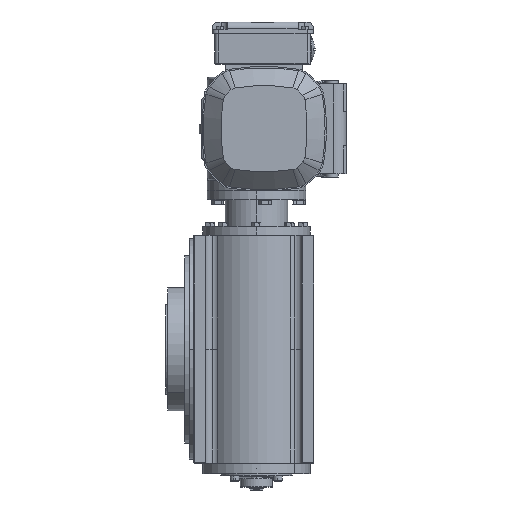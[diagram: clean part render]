
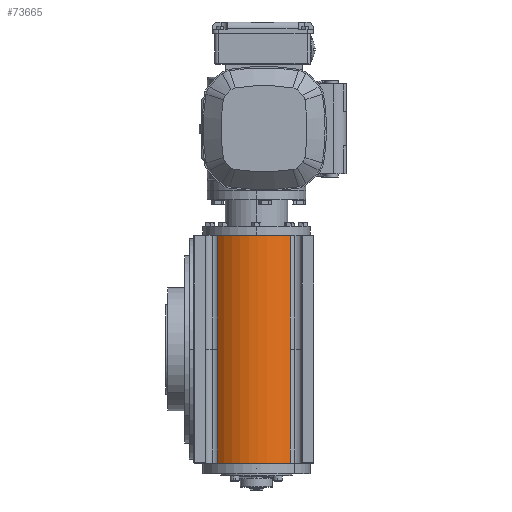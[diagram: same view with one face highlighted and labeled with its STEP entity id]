
A CAD part, left-side view. The second image highlights one B-rep face of the part: STEP entity #73665.
In plain terms, the highlighted cylindrical face has radius 60 mm (diameter 120 mm), a partial arc.
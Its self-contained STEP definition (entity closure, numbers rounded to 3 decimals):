
#724 = ORIENTED_EDGE ( 'NONE', *, *, #35340, .T. ) ;
#1053 = CARTESIAN_POINT ( 'NONE',  ( -131.481, 26.059, -121.981 ) ) ;
#7448 = CARTESIAN_POINT ( 'NONE',  ( -126.602, 107.235, -121.981 ) ) ;
#12289 = LINE ( 'NONE', #37129, #47748 ) ;
#13421 = CARTESIAN_POINT ( 'NONE',  ( -131.481, 26.059, 0. ) ) ;
#13992 = CARTESIAN_POINT ( 'NONE',  ( -126.602, 107.235, 127. ) ) ;
#14714 = DIRECTION ( 'NONE',  ( 1., 0., 0. ) ) ;
#18510 = DIRECTION ( 'NONE',  ( -1., 0., 0. ) ) ;
#20659 = AXIS2_PLACEMENT_3D ( 'NONE', #70694, #75634, #14714 ) ;
#20927 = CARTESIAN_POINT ( 'NONE',  ( -85., 64., -121.981 ) ) ;
#22244 = DIRECTION ( 'NONE',  ( 0., 0., -1. ) ) ;
#23467 = CARTESIAN_POINT ( 'NONE',  ( -131.481, 26.059, 127. ) ) ;
#23646 = EDGE_CURVE ( 'NONE', #42306, #78809, #56608, .T. ) ;
#26312 = VERTEX_POINT ( 'NONE', #46722 ) ;
#27039 = AXIS2_PLACEMENT_3D ( 'NONE', #20927, #69648, #63999 ) ;
#27350 = EDGE_CURVE ( 'NONE', #26312, #60785, #73050, .T. ) ;
#27913 = VECTOR ( 'NONE', #44504, 1000. ) ;
#28489 = VECTOR ( 'NONE', #22244, 1000. ) ;
#30805 = DIRECTION ( 'NONE',  ( 0., 0., -1. ) ) ;
#31928 = ORIENTED_EDGE ( 'NONE', *, *, #27350, .F. ) ;
#34467 = LINE ( 'NONE', #59213, #28489 ) ;
#35340 = EDGE_CURVE ( 'NONE', #65665, #41304, #56679, .T. ) ;
#37129 = CARTESIAN_POINT ( 'NONE',  ( -131.481, 26.059, -121.981 ) ) ;
#41304 = VERTEX_POINT ( 'NONE', #23467 ) ;
#42306 = VERTEX_POINT ( 'NONE', #13992 ) ;
#43826 = CIRCLE ( 'NONE', #20659, 60. ) ;
#44504 = DIRECTION ( 'NONE',  ( 0., 0., 1. ) ) ;
#45583 = DIRECTION ( 'NONE',  ( 0., 0., 1. ) ) ;
#46722 = CARTESIAN_POINT ( 'NONE',  ( -131.481, 26.059, -127. ) ) ;
#47748 = VECTOR ( 'NONE', #45583, 1000. ) ;
#48491 = VECTOR ( 'NONE', #75706, 1000. ) ;
#54456 = CARTESIAN_POINT ( 'NONE',  ( -126.602, 107.235, -127. ) ) ;
#56118 = ORIENTED_EDGE ( 'NONE', *, *, #73522, .T. ) ;
#56608 = LINE ( 'NONE', #7448, #48491 ) ;
#56675 = CYLINDRICAL_SURFACE ( 'NONE', #27039, 60. ) ;
#56679 = LINE ( 'NONE', #1053, #27913 ) ;
#59213 = CARTESIAN_POINT ( 'NONE',  ( -126.602, 107.235, -121.981 ) ) ;
#60538 = EDGE_CURVE ( 'NONE', #26312, #65665, #12289, .T. ) ;
#60785 = VERTEX_POINT ( 'NONE', #54456 ) ;
#60989 = ORIENTED_EDGE ( 'NONE', *, *, #60538, .T. ) ;
#61656 = CARTESIAN_POINT ( 'NONE',  ( -85., 64., -127. ) ) ;
#62820 = FACE_OUTER_BOUND ( 'NONE', #75057, .T. ) ;
#63392 = ORIENTED_EDGE ( 'NONE', *, *, #23646, .T. ) ;
#63999 = DIRECTION ( 'NONE',  ( 1., 0., 0. ) ) ;
#65665 = VERTEX_POINT ( 'NONE', #13421 ) ;
#69648 = DIRECTION ( 'NONE',  ( 0., 0., 1. ) ) ;
#70394 = ORIENTED_EDGE ( 'NONE', *, *, #73743, .F. ) ;
#70694 = CARTESIAN_POINT ( 'NONE',  ( -85., 64., 127. ) ) ;
#73050 = CIRCLE ( 'NONE', #74344, 60. ) ;
#73522 = EDGE_CURVE ( 'NONE', #78809, #60785, #34467, .T. ) ;
#73665 = ADVANCED_FACE ( 'NONE', ( #62820 ), #56675, .T. ) ;
#73743 = EDGE_CURVE ( 'NONE', #42306, #41304, #43826, .T. ) ;
#74344 = AXIS2_PLACEMENT_3D ( 'NONE', #61656, #30805, #18510 ) ;
#75057 = EDGE_LOOP ( 'NONE', ( #60989, #724, #70394, #63392, #56118, #31928 ) ) ;
#75634 = DIRECTION ( 'NONE',  ( 0., 0., 1. ) ) ;
#75706 = DIRECTION ( 'NONE',  ( 0., 0., -1. ) ) ;
#76921 = CARTESIAN_POINT ( 'NONE',  ( -126.602, 107.235, 0. ) ) ;
#78809 = VERTEX_POINT ( 'NONE', #76921 ) ;
